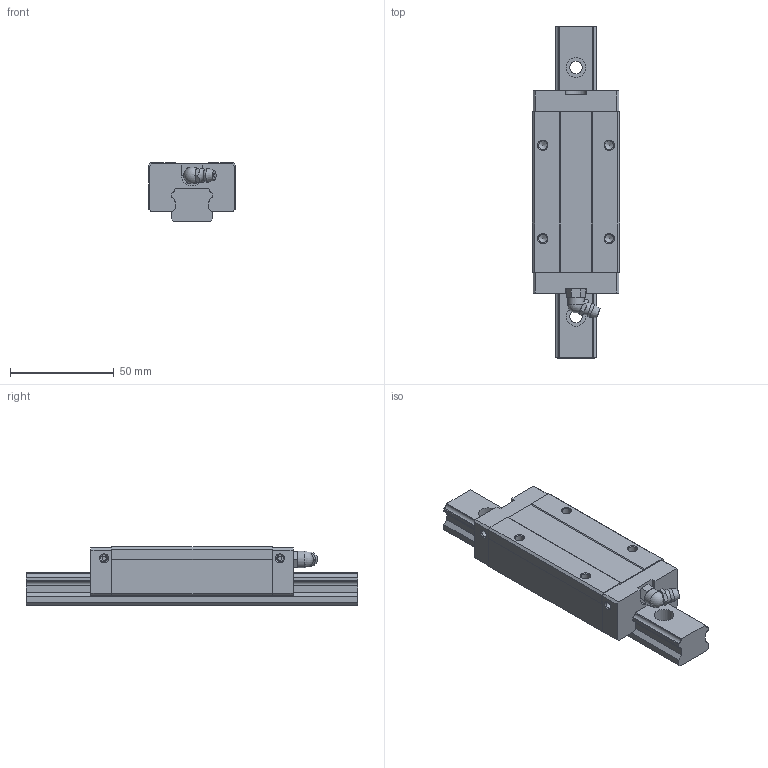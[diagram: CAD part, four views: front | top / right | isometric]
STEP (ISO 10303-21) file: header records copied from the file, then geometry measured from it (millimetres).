
FILE_DESCRIPTION(/* description */ (''),/* implementation_level */ '2;1');
FILE_NAME(/* name */ 'SME20-LSB',/* time_stamp */ '2008-10-06T10:15:26+08:00',/* author */ (''),/* organization */ (''),/* preprocessor_version */ 'ST-DEVELOPER v11',/* originating_system */ 'UGS - NX 5.0',/* authorisation */ '');
FILE_SCHEMA (('AUTOMOTIVE_DESIGN { 1 0 10303 214 1 1 1 1 }'));
Length unit declared in the file: millimetre
Products named in the file (1): jillBD1Cali7
Bounding box: 42 x 160 x 28 mm (x, y, z)
Volume: 117867.6 mm3; surface area: 30500.7 mm2
Topology: 3 solids, 3 shells, 164 faces, 425 edges, 280 vertices
Faces by surface type: plane 98, cylinder 43, cone 13, torus 7, sphere 2, bspline 1
Full cylindrical faces by diameter (mm): 2 x4, 3.3 x4, 4.2 x4, 6 x3, 6.5 x2, 8 x1, 9.5 x3
Entity records: 5049 total; most frequent: CARTESIAN_POINT 961, DIRECTION 788, ORIENTED_EDGE 734, EDGE_CURVE 367, AXIS2_PLACEMENT_3D 275, VERTEX_POINT 264, LINE 238, VECTOR 238
